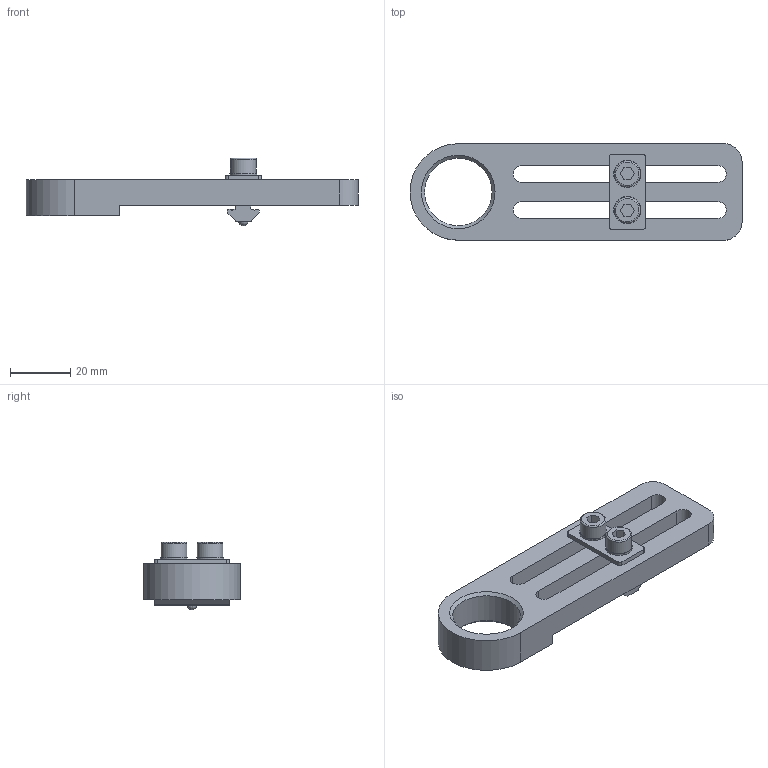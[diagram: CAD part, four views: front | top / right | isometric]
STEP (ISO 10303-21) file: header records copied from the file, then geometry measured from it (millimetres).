
FILE_DESCRIPTION(/* description */ (''),/* implementation_level */ '2;1');
FILE_NAME(/* name */ 'J:\_TEMP - INPUT - Daten Austausch\CADs\stp Dateien für homepage\GR02.233.stp',/* time_stamp */ '2016-11-14T14:11:23+01:00',/* author */ ('DFloßmann'),/* organization */ (''),/* preprocessor_version */ 'ST-DEVELOPER v16.5',/* originating_system */ 'Autodesk Inventor 2017',/* authorisation */ '');
FILE_SCHEMA (('AUTOMOTIVE_DESIGN { 1 0 10303 214 3 1 1 }'));
Length unit declared in the file: millimetre
Products named in the file (6): GR02.233; GR02.233-1; GR02.013-2; Schnorr S5; DIN912-M5x16; GR01.092A
Assembly tree (7 placements, depth 2):
  GR02.233
    GR02.233-1
    GR02.013-2
    Schnorr S5  x2
    DIN912-M5x16  x2
    GR01.092A
Bounding box: 110 x 32 x 22.39 mm (x, y, z)
Volume: 23076.1 mm3; surface area: 13206.6 mm2
Topology: 7 solids, 7 shells, 102 faces, 251 edges, 166 vertices
Faces by surface type: plane 55, cylinder 40, cone 4, torus 2, sphere 1
Full cylindrical faces by diameter (mm): 4.134 x2, 5 x2, 5.3 x2, 5.5 x2, 8.5 x2, 9 x2, 22.376 x1
Entity records: 2681 total; most frequent: DIRECTION 468, CARTESIAN_POINT 433, ORIENTED_EDGE 394, EDGE_CURVE 197, AXIS2_PLACEMENT_3D 174, VERTEX_POINT 139, LINE 120, VECTOR 120
